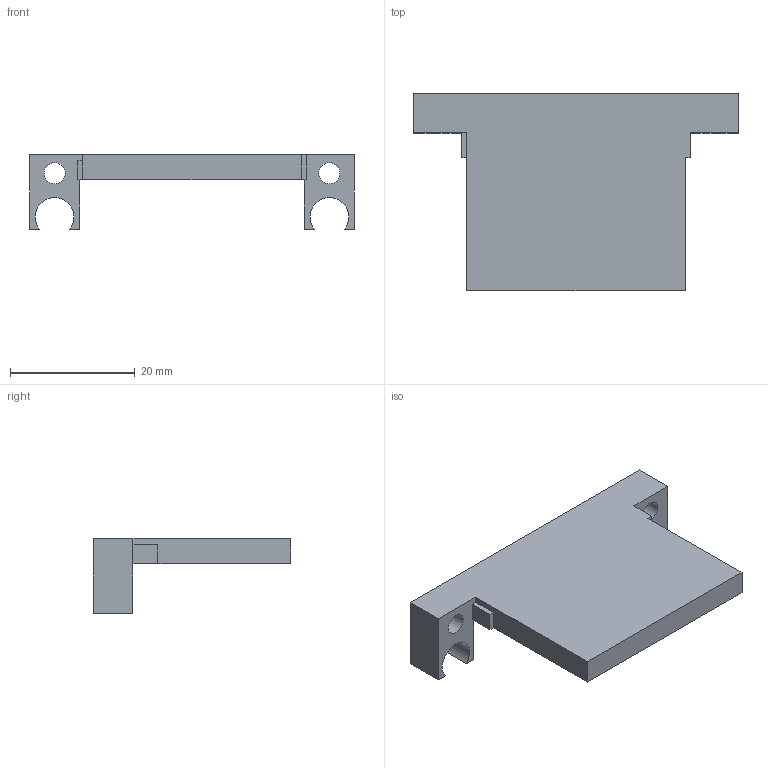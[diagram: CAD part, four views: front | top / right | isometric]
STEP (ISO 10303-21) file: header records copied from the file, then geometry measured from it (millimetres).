
FILE_DESCRIPTION(('FreeCAD Model'),'2;1');
FILE_NAME('Open CASCADE Shape Model','2026-09-19T21:01:32',('FreeCAD'),( 'FreeCAD'),'Open CASCADE STEP processor 7.8','FreeCAD','Unknown');
FILE_SCHEMA(('AUTOMOTIVE_DESIGN { 1 0 10303 214 1 1 1 1 }'));
Length unit declared in the file: millimetre
Products named in the file (1): Open CASCADE STEP translator 7.8 6
Bounding box: 52 x 31.7 x 12 mm (x, y, z)
Volume: 5258.5 mm3; surface area: 3693.6 mm2
Topology: 1 solids, 1 shells, 25 faces, 73 edges, 50 vertices
Faces by surface type: plane 21, cylinder 4
Full cylindrical faces by diameter (mm): 3.4 x2
Entity records: 849 total; most frequent: CARTESIAN_POINT 149, ORIENTED_EDGE 146, DIRECTION 137, EDGE_CURVE 73, LINE 61, VECTOR 61, VERTEX_POINT 50, AXIS2_PLACEMENT_3D 38
